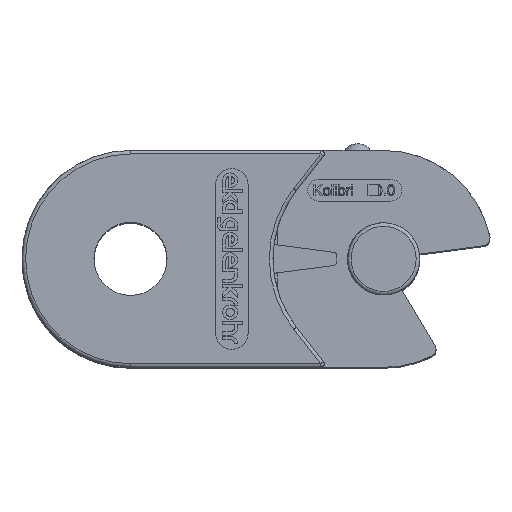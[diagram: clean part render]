
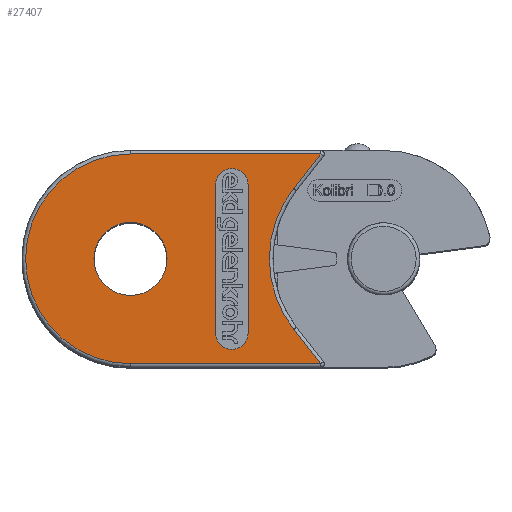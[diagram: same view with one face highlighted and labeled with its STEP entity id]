
A CAD part, top view. The second image highlights one B-rep face of the part: STEP entity #27407.
In plain terms, the highlighted planar face has unit normal (0, 0, 1).
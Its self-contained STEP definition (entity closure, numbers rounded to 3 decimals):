
#17771=CARTESIAN_POINT('',(-35.889,-30.583,7.481));
#17772=VERTEX_POINT('',#17771);
#17773=CARTESIAN_POINT('',(-40.939,-30.583,7.481));
#17774=DIRECTION('',(0.0,0.0,-1.0));
#17775=DIRECTION('',(-1.0,0.0,0.0));
#17776=AXIS2_PLACEMENT_3D('',#17773,#17774,#17775);
#17777=CIRCLE('',#17776,5.05);
#17778=EDGE_CURVE('',#17772,#17772,#17777,.T.);
#18031=CARTESIAN_POINT('',(-14.646,-16.083,7.481));
#18032=VERTEX_POINT('',#18031);
#18056=CARTESIAN_POINT('',(-14.646,-45.083,7.481));
#18057=VERTEX_POINT('',#18056);
#18080=CARTESIAN_POINT('',(-18.371,-20.831,7.481));
#18081=VERTEX_POINT('',#18080);
#18096=CARTESIAN_POINT('',(-14.646,-16.083,7.481));
#18097=DIRECTION('',(-0.617,-0.787,0.));
#18098=VECTOR('',#18097,6.035);
#18099=LINE('',#18096,#18098);
#18100=EDGE_CURVE('',#18032,#18081,#18099,.T.);
#18112=CARTESIAN_POINT('',(-18.371,-40.334,7.481));
#18113=VERTEX_POINT('',#18112);
#18114=CARTESIAN_POINT('',(-5.939,-30.583,7.481));
#18115=DIRECTION('',(0.0,0.0,1.0));
#18116=DIRECTION('',(-1.,0.,0.0));
#18117=AXIS2_PLACEMENT_3D('',#18114,#18115,#18116);
#18118=CIRCLE('',#18117,15.8);
#18119=EDGE_CURVE('',#18081,#18113,#18118,.T.);
#18144=CARTESIAN_POINT('',(-18.371,-40.334,7.481));
#18145=DIRECTION('',(0.617,-0.787,0.0));
#18146=VECTOR('',#18145,6.035);
#18147=LINE('',#18144,#18146);
#18148=EDGE_CURVE('',#18113,#18057,#18147,.T.);
#18158=CARTESIAN_POINT('',(-40.939,-16.083,7.481));
#18159=VERTEX_POINT('',#18158);
#18169=CARTESIAN_POINT('',(-40.939,-16.083,7.481));
#18170=DIRECTION('',(1.0,0.0,0.0));
#18171=VECTOR('',#18170,26.293);
#18172=LINE('',#18169,#18171);
#18173=EDGE_CURVE('',#18159,#18032,#18172,.T.);
#18190=CARTESIAN_POINT('',(-40.939,-45.083,7.481));
#18191=VERTEX_POINT('',#18190);
#18192=CARTESIAN_POINT('',(-40.939,-30.583,7.481));
#18193=DIRECTION('',(0.0,0.0,-1.0));
#18194=DIRECTION('',(-1.0,0.0,0.0));
#18195=AXIS2_PLACEMENT_3D('',#18192,#18193,#18194);
#18196=CIRCLE('',#18195,14.5);
#18197=EDGE_CURVE('',#18191,#18159,#18196,.T.);
#18225=CARTESIAN_POINT('',(-14.646,-45.083,7.481));
#18226=DIRECTION('',(-1.0,0.0,0.0));
#18227=VECTOR('',#18226,26.293);
#18228=LINE('',#18225,#18227);
#18229=EDGE_CURVE('',#18057,#18191,#18228,.T.);
#18969=CARTESIAN_POINT('',(-29.186,-20.333,7.481));
#18970=VERTEX_POINT('',#18969);
#18971=CARTESIAN_POINT('',(-24.686,-20.333,7.481));
#18972=VERTEX_POINT('',#18971);
#18973=CARTESIAN_POINT('',(-26.936,-20.333,7.481));
#18974=DIRECTION('',(0.0,0.0,-1.0));
#18975=DIRECTION('',(0.0,-1.0,0.0));
#18976=AXIS2_PLACEMENT_3D('',#18973,#18974,#18975);
#18977=CIRCLE('',#18976,2.25);
#18978=EDGE_CURVE('',#18970,#18972,#18977,.T.);
#19022=CARTESIAN_POINT('',(-29.186,-40.833,7.481));
#19023=VERTEX_POINT('',#19022);
#19030=CARTESIAN_POINT('',(-24.686,-40.833,7.481));
#19031=VERTEX_POINT('',#19030);
#19032=CARTESIAN_POINT('',(-26.936,-40.833,7.481));
#19033=DIRECTION('',(0.0,0.0,-1.0));
#19034=DIRECTION('',(0.0,-1.0,0.0));
#19035=AXIS2_PLACEMENT_3D('',#19032,#19033,#19034);
#19036=CIRCLE('',#19035,2.25);
#19037=EDGE_CURVE('',#19031,#19023,#19036,.T.);
#26612=CARTESIAN_POINT('',(-24.686,-20.333,7.481));
#26613=DIRECTION('',(0.0,-1.0,0.0));
#26614=VECTOR('',#26613,20.5);
#26615=LINE('',#26612,#26614);
#26616=EDGE_CURVE('',#18972,#19031,#26615,.T.);
#26634=CARTESIAN_POINT('',(-29.186,-40.833,7.481));
#26635=DIRECTION('',(0.0,1.0,0.0));
#26636=VECTOR('',#26635,20.5);
#26637=LINE('',#26634,#26636);
#26638=EDGE_CURVE('',#19023,#18970,#26637,.T.);
#27385=CARTESIAN_POINT('',(-23.228,-30.583,7.481));
#27386=DIRECTION('',(0.0,0.0,1.0));
#27387=DIRECTION('',(1.0,0.0,0.0));
#27388=AXIS2_PLACEMENT_3D('',#27385,#27386,#27387);
#27389=PLANE('',#27388);
#27390=ORIENTED_EDGE('',*,*,#18229,.F.);
#27391=ORIENTED_EDGE('',*,*,#18148,.F.);
#27392=ORIENTED_EDGE('',*,*,#18119,.F.);
#27393=ORIENTED_EDGE('',*,*,#18100,.F.);
#27394=ORIENTED_EDGE('',*,*,#18173,.F.);
#27395=ORIENTED_EDGE('',*,*,#18197,.F.);
#27396=EDGE_LOOP('',(#27390,#27391,#27392,#27393,#27394,#27395));
#27397=FACE_OUTER_BOUND('',#27396,.T.);
#27398=ORIENTED_EDGE('',*,*,#19037,.T.);
#27399=ORIENTED_EDGE('',*,*,#26638,.T.);
#27400=ORIENTED_EDGE('',*,*,#18978,.T.);
#27401=ORIENTED_EDGE('',*,*,#26616,.T.);
#27402=EDGE_LOOP('',(#27398,#27399,#27400,#27401));
#27403=FACE_BOUND('',#27402,.T.);
#27404=ORIENTED_EDGE('',*,*,#17778,.T.);
#27405=EDGE_LOOP('',(#27404));
#27406=FACE_BOUND('',#27405,.T.);
#27407=ADVANCED_FACE('',(#27397,#27403,#27406),#27389,.T.);
